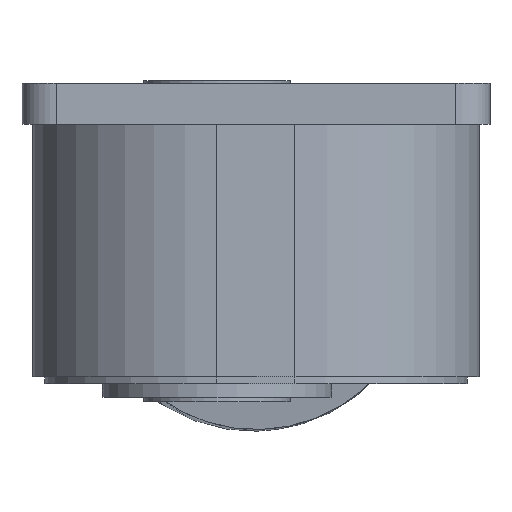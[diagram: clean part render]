
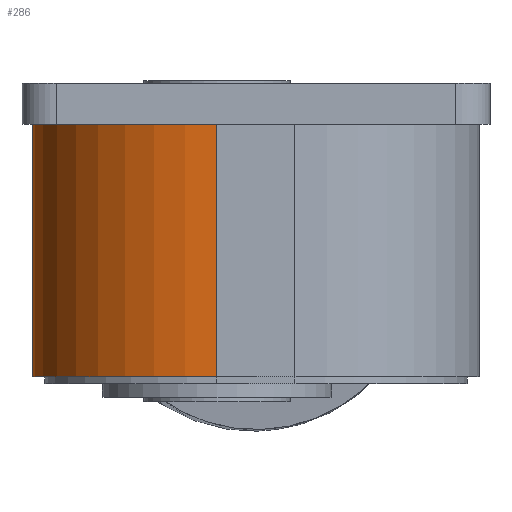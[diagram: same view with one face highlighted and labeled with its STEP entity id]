
A CAD part, left-side view. The second image highlights one B-rep face of the part: STEP entity #286.
In plain terms, the highlighted cylindrical face has radius 80.5 mm (diameter 161 mm), a partial arc.
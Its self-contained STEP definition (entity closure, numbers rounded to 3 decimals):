
#286 = ADVANCED_FACE( '', ( #920 ), #921, .T. );
#920 = FACE_OUTER_BOUND( '', #2265, .T. );
#921 = CYLINDRICAL_SURFACE( '', #2266, 80.5 );
#2265 = EDGE_LOOP( '', ( #3777, #3778, #3779, #3780 ) );
#2266 = AXIS2_PLACEMENT_3D( '', #3781, #3782, #3783 );
#3777 = ORIENTED_EDGE( '', *, *, #8756, .F. );
#3778 = ORIENTED_EDGE( '', *, *, #8757, .F. );
#3779 = ORIENTED_EDGE( '', *, *, #8708, .T. );
#3780 = ORIENTED_EDGE( '', *, *, #8758, .T. );
#3781 = CARTESIAN_POINT( '', ( -128., 0., 0. ) );
#3782 = DIRECTION( '', ( -1., 0., 0. ) );
#3783 = DIRECTION( '', ( 0., 0., -1. ) );
#8708 = EDGE_CURVE( '', #10370, #10368, #10371, .T. );
#8756 = EDGE_CURVE( '', #10463, #10464, #10465, .T. );
#8757 = EDGE_CURVE( '', #10370, #10463, #10466, .T. );
#8758 = EDGE_CURVE( '', #10368, #10464, #10467, .T. );
#10368 = VERTEX_POINT( '', #13069 );
#10370 = VERTEX_POINT( '', #13072 );
#10371 = CIRCLE( '', #13073, 80.5 );
#10463 = VERTEX_POINT( '', #13183 );
#10464 = VERTEX_POINT( '', #13184 );
#10465 = CIRCLE( '', #13185, 80.5 );
#10466 = LINE( '', #13186, #13187 );
#10467 = LINE( '', #13188, #13189 );
#13069 = CARTESIAN_POINT( '', ( -128., 0., 80.5 ) );
#13072 = CARTESIAN_POINT( '', ( -128., 80.5, 0. ) );
#13073 = AXIS2_PLACEMENT_3D( '', #16690, #16691, #16692 );
#13183 = CARTESIAN_POINT( '', ( -18., 80.5, 0. ) );
#13184 = CARTESIAN_POINT( '', ( -18., 0., 80.5 ) );
#13185 = AXIS2_PLACEMENT_3D( '', #16798, #16799, #16800 );
#13186 = CARTESIAN_POINT( '', ( -128., 80.5, 0. ) );
#13187 = VECTOR( '', #16801, 1000. );
#13188 = CARTESIAN_POINT( '', ( -128., 0., 80.5 ) );
#13189 = VECTOR( '', #16802, 1000. );
#16690 = CARTESIAN_POINT( '', ( -128., 0., 0. ) );
#16691 = DIRECTION( '', ( 1., 0., 0. ) );
#16692 = DIRECTION( '', ( 0., 0., -1. ) );
#16798 = CARTESIAN_POINT( '', ( -18., 0., 0. ) );
#16799 = DIRECTION( '', ( 1., 0., 0. ) );
#16800 = DIRECTION( '', ( 0., 0., -1. ) );
#16801 = DIRECTION( '', ( 1., 0., 0. ) );
#16802 = DIRECTION( '', ( 1., 0., 0. ) );
